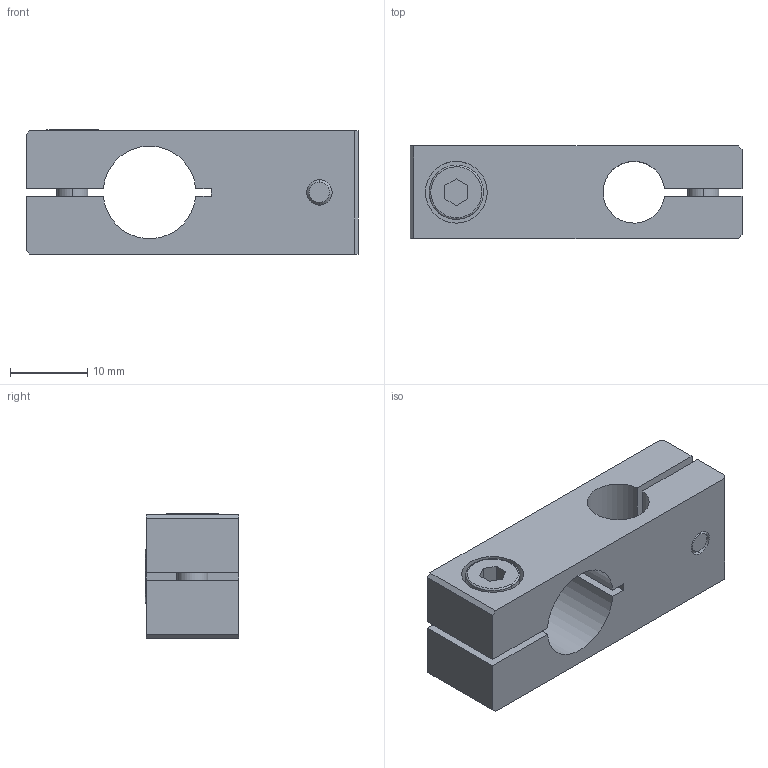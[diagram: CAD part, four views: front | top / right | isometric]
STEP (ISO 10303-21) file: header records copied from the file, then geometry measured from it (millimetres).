
FILE_DESCRIPTION (( 'STEP AP214' ), '1' );
FILE_NAME ('SMBT-1208.STEP', '2019-11-06T05:34:38', ( '微软用户' ), ( '微软中国' ), 'SwSTEP 2.0', 'SolidWorks 2016', '' );
FILE_SCHEMA (( 'AUTOMOTIVE_DESIGN' ));
Length unit declared in the file: millimetre
Products named in the file (1): SMBT-1208
Bounding box: 43 x 12.1 x 16.1 mm (x, y, z)
Volume: 5642.6 mm3; surface area: 4856.9 mm2
Topology: 5 solids, 5 shells, 465 faces, 1335 edges, 882 vertices
Faces by surface type: plane 425, cylinder 32, cone 4, bspline 4
Entity records: 20712 total; most frequent: CARTESIAN_POINT 2931, DIRECTION 2687, ORIENTED_EDGE 2670, EDGE_CURVE 1335, AXIS2_PLACEMENT_3D 898, VECTOR 891, LINE 891, VERTEX_POINT 882
